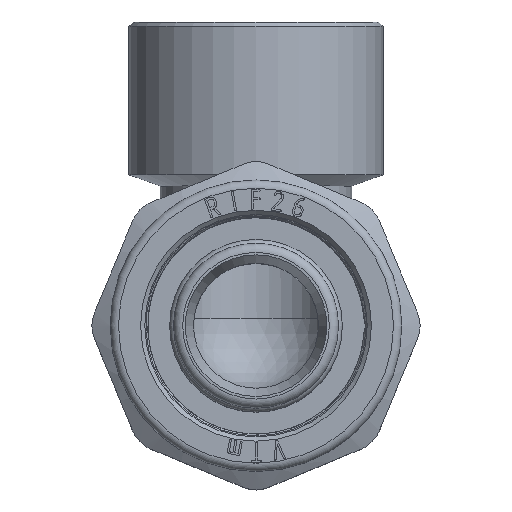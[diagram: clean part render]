
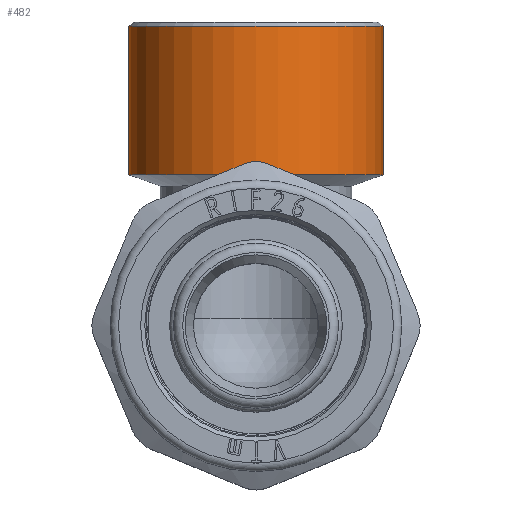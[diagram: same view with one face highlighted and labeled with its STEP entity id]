
A CAD part, top view. The second image highlights one B-rep face of the part: STEP entity #482.
In plain terms, the highlighted cylindrical face has radius 15.25 mm (diameter 30.5 mm), a full revolution.
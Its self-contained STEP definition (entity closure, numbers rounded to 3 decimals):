
#482=ADVANCED_FACE('',(#3508,#3510),#3512,.T.);
#3508=FACE_OUTER_BOUND('',#3509,.T.);
#3509=EDGE_LOOP('',(#6746));
#3510=FACE_OUTER_BOUND('',#3511,.T.);
#3511=EDGE_LOOP('',(#6747));
#3512=CYLINDRICAL_SURFACE('',#3513,15.25);
#3513=AXIS2_PLACEMENT_3D('',#3514,#3515,#3516);
#3514=CARTESIAN_POINT('',(0.,18.2,0.));
#3515=DIRECTION('',(0.,1.,0.));
#3516=DIRECTION('',(-1.,0.,0.));
#6746=ORIENTED_EDGE('',*,*,#8016,.F.);
#6747=ORIENTED_EDGE('',*,*,#7978,.F.);
#7978=EDGE_CURVE('',#9976,#9976,#9977,.F.);
#8016=EDGE_CURVE('',#10034,#10034,#10035,.T.);
#9976=VERTEX_POINT('',#16715);
#9977=CIRCLE('',#16716,15.25);
#10034=VERTEX_POINT('',#16851);
#10035=CIRCLE('',#16852,15.25);
#16715=CARTESIAN_POINT('',(-15.25,18.2,0.));
#16716=AXIS2_PLACEMENT_3D('',#16717,#16718,#16719);
#16717=CARTESIAN_POINT('',(0.,18.2,0.));
#16718=DIRECTION('',(0.,1.,0.));
#16719=DIRECTION('',(-1.,0.,0.));
#16851=CARTESIAN_POINT('',(-15.25,36.,0.));
#16852=AXIS2_PLACEMENT_3D('',#16853,#16854,#16855);
#16853=CARTESIAN_POINT('',(0.,36.,0.));
#16854=DIRECTION('',(0.,1.,0.));
#16855=DIRECTION('',(-1.,0.,0.));
